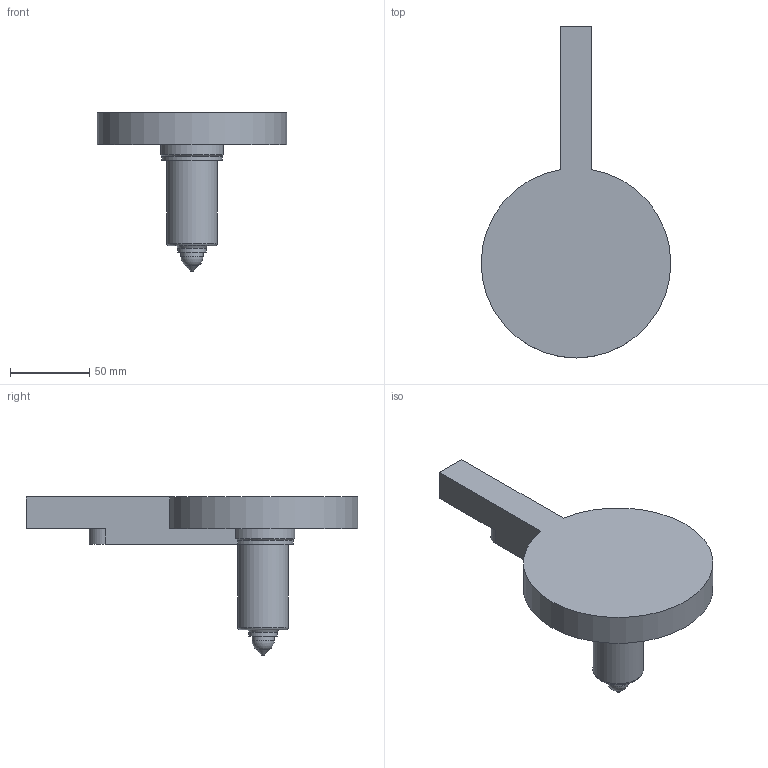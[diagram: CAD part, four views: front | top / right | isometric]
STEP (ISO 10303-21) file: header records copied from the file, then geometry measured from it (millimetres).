
FILE_DESCRIPTION( ( 'STEP AP214' ), '1' );
FILE_NAME( 'S:/PROIECTE_YUDO_2010/PROIECTE YUDO 2010 3D/BIS/YUCZ10-BIS18CC095/YUCZ10-BIS18CC095CUTOUT.step', '2010-02-17T11:19:05', ( ' ' ), ( ' ' ), 'XStep 1.0', ' ', ' ' );
FILE_SCHEMA( ( 'automotive_design' ) );
Length unit declared in the file: millimetre
Products named in the file (1): 1
Bounding box: 120 x 210 x 100 mm (x, y, z)
Volume: 337964 mm3; surface area: 46202.2 mm2
Topology: 1 solids, 1 shells, 22 faces, 49 edges, 32 vertices
Faces by surface type: plane 10, cylinder 7, cone 3, torus 1, sphere 1
Full cylindrical faces by diameter (mm): 14 x1, 18 x1, 32 x1
Entity records: 756 total; most frequent: DIRECTION 102, CARTESIAN_POINT 99, ORIENTED_EDGE 80, AXIS2_PLACEMENT_3D 41, EDGE_CURVE 40, EDGE_LOOP 32, VERTEX_POINT 30, FACE_OUTER_BOUND 27
